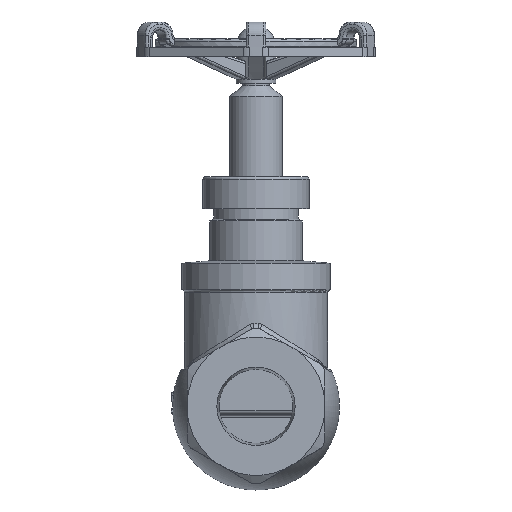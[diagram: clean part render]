
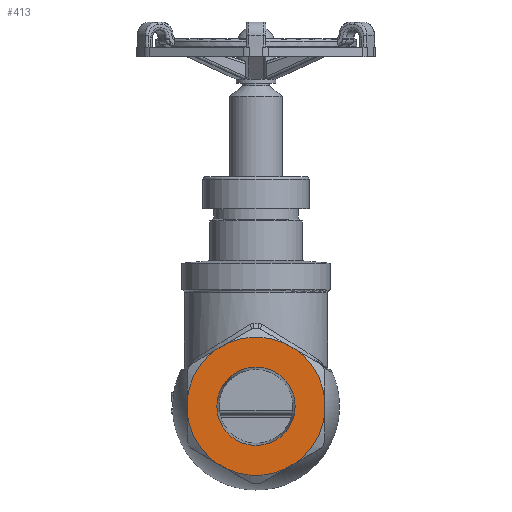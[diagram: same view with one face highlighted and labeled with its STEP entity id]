
A CAD part, top view. The second image highlights one B-rep face of the part: STEP entity #413.
In plain terms, the highlighted planar face has unit normal (0, 0, 1).
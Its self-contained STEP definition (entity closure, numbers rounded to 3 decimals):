
#413=ADVANCED_FACE('',(#4469,#4471),#4473,.T.);
#4469=FACE_BOUND('',#4470,.T.);
#4470=EDGE_LOOP('',(#13583,#13584,#13585,#13586,#13587,#13588,#13589,#13590,#13591,
#13592,#13593,#13594));
#4471=FACE_BOUND('',#4472,.T.);
#4472=EDGE_LOOP('',(#13595));
#4473=PLANE('',#4474);
#4474=AXIS2_PLACEMENT_3D('',#4475,#4476,#4477);
#4475=CARTESIAN_POINT('',(0.,0.,0.));
#4476=DIRECTION('',(0.,0.,1.));
#4477=DIRECTION('',(1.,0.,0.));
#13583=ORIENTED_EDGE('',*,*,#16599,.T.);
#13584=ORIENTED_EDGE('',*,*,#16600,.T.);
#13585=ORIENTED_EDGE('',*,*,#16601,.T.);
#13586=ORIENTED_EDGE('',*,*,#16509,.T.);
#13587=ORIENTED_EDGE('',*,*,#16602,.T.);
#13588=ORIENTED_EDGE('',*,*,#16499,.T.);
#13589=ORIENTED_EDGE('',*,*,#16603,.T.);
#13590=ORIENTED_EDGE('',*,*,#16489,.T.);
#13591=ORIENTED_EDGE('',*,*,#16604,.T.);
#13592=ORIENTED_EDGE('',*,*,#16479,.T.);
#13593=ORIENTED_EDGE('',*,*,#16598,.T.);
#13594=ORIENTED_EDGE('',*,*,#16596,.T.);
#13595=ORIENTED_EDGE('',*,*,#16605,.T.);
#16479=EDGE_CURVE('',#18122,#18120,#18123,.T.);
#16489=EDGE_CURVE('',#18138,#18136,#18139,.T.);
#16499=EDGE_CURVE('',#18154,#18152,#18155,.T.);
#16509=EDGE_CURVE('',#18170,#18168,#18171,.T.);
#16596=EDGE_CURVE('',#18315,#18313,#18316,.T.);
#16598=EDGE_CURVE('',#18120,#18315,#18318,.F.);
#16599=EDGE_CURVE('',#18313,#18319,#18320,.F.);
#16600=EDGE_CURVE('',#18319,#18321,#18322,.T.);
#16601=EDGE_CURVE('',#18321,#18170,#18323,.F.);
#16602=EDGE_CURVE('',#18168,#18154,#18324,.F.);
#16603=EDGE_CURVE('',#18152,#18138,#18325,.F.);
#16604=EDGE_CURVE('',#18136,#18122,#18326,.F.);
#16605=EDGE_CURVE('',#18327,#18327,#18328,.F.);
#18120=VERTEX_POINT('',#23401);
#18122=VERTEX_POINT('',#23438);
#18123=LINE('',#23439,#23440);
#18136=VERTEX_POINT('',#23529);
#18138=VERTEX_POINT('',#23562);
#18139=LINE('',#23563,#23564);
#18152=VERTEX_POINT('',#23651);
#18154=VERTEX_POINT('',#23684);
#18155=LINE('',#23685,#23686);
#18168=VERTEX_POINT('',#23771);
#18170=VERTEX_POINT('',#23808);
#18171=LINE('',#23809,#23810);
#18313=VERTEX_POINT('',#24604);
#18315=VERTEX_POINT('',#24637);
#18316=LINE('',#24638,#24639);
#18318=CIRCLE('',#24669,26.097);
#18319=VERTEX_POINT('',#24673);
#18320=CIRCLE('',#24674,26.097);
#18321=VERTEX_POINT('',#24678);
#18322=LINE('',#24679,#24680);
#18323=CIRCLE('',#24682,26.097);
#18324=CIRCLE('',#24686,26.097);
#18325=CIRCLE('',#24690,26.097);
#18326=CIRCLE('',#24694,26.097);
#18327=VERTEX_POINT('',#24698);
#18328=CIRCLE('',#24699,14.788);
#23401=CARTESIAN_POINT('',(25.981,32.455,0.));
#23438=CARTESIAN_POINT('',(25.981,27.545,0.));
#23439=CARTESIAN_POINT('',(25.981,27.545,0.));
#23440=VECTOR('',#23441,1.);
#23441=DIRECTION('',(0.,1.,0.));
#23529=CARTESIAN_POINT('',(15.117,8.728,0.));
#23562=CARTESIAN_POINT('',(10.864,6.272,0.));
#23563=CARTESIAN_POINT('',(10.864,6.272,0.));
#23564=VECTOR('',#23565,1.);
#23565=DIRECTION('',(0.866,0.5,0.));
#23651=CARTESIAN_POINT('',(-10.864,6.272,0.));
#23684=CARTESIAN_POINT('',(-15.117,8.728,0.));
#23685=CARTESIAN_POINT('',(-15.117,8.728,0.));
#23686=VECTOR('',#23687,1.);
#23687=DIRECTION('',(0.866,-0.5,0.));
#23771=CARTESIAN_POINT('',(-25.981,27.545,0.));
#23808=CARTESIAN_POINT('',(-25.981,32.455,0.));
#23809=CARTESIAN_POINT('',(-25.981,32.455,0.));
#23810=VECTOR('',#23811,1.);
#23811=DIRECTION('',(0.,-1.,0.));
#24604=CARTESIAN_POINT('',(10.864,53.728,0.));
#24637=CARTESIAN_POINT('',(15.117,51.272,0.));
#24638=CARTESIAN_POINT('',(15.117,51.272,0.));
#24639=VECTOR('',#24640,1.);
#24640=DIRECTION('',(-0.866,0.5,0.));
#24669=AXIS2_PLACEMENT_3D('',#24670,#24671,#24672);
#24670=CARTESIAN_POINT('',(0.,30.,0.));
#24671=DIRECTION('',(0.,0.,-1.));
#24672=DIRECTION('',(0.579,0.815,0.));
#24673=CARTESIAN_POINT('',(-10.864,53.728,0.));
#24674=AXIS2_PLACEMENT_3D('',#24675,#24676,#24677);
#24675=CARTESIAN_POINT('',(0.,30.,0.));
#24676=DIRECTION('',(0.,0.,-1.));
#24677=DIRECTION('',(-0.416,0.909,0.));
#24678=CARTESIAN_POINT('',(-15.117,51.272,0.));
#24679=CARTESIAN_POINT('',(-10.864,53.728,0.));
#24680=VECTOR('',#24681,1.);
#24681=DIRECTION('',(-0.866,-0.5,0.));
#24682=AXIS2_PLACEMENT_3D('',#24683,#24684,#24685);
#24683=CARTESIAN_POINT('',(0.,30.,0.));
#24684=DIRECTION('',(0.,0.,-1.));
#24685=DIRECTION('',(-0.996,0.094,0.));
#24686=AXIS2_PLACEMENT_3D('',#24687,#24688,#24689);
#24687=CARTESIAN_POINT('',(0.,30.,0.));
#24688=DIRECTION('',(0.,0.,-1.));
#24689=DIRECTION('',(-0.579,-0.815,0.));
#24690=AXIS2_PLACEMENT_3D('',#24691,#24692,#24693);
#24691=CARTESIAN_POINT('',(0.,30.,0.));
#24692=DIRECTION('',(0.,0.,-1.));
#24693=DIRECTION('',(0.416,-0.909,0.));
#24694=AXIS2_PLACEMENT_3D('',#24695,#24696,#24697);
#24695=CARTESIAN_POINT('',(0.,30.,0.));
#24696=DIRECTION('',(0.,0.,-1.));
#24697=DIRECTION('',(0.996,-0.094,0.));
#24698=CARTESIAN_POINT('',(0.,15.212,0.));
#24699=AXIS2_PLACEMENT_3D('',#24700,#24701,#24702);
#24700=CARTESIAN_POINT('',(0.,30.,0.));
#24701=DIRECTION('',(0.,0.,1.));
#24702=DIRECTION('',(0.,-1.,0.));
